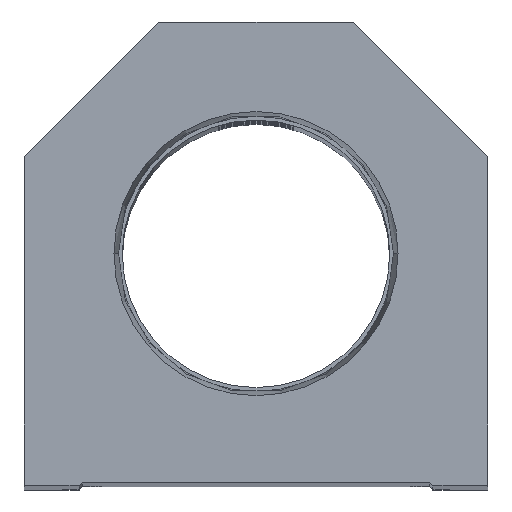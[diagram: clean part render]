
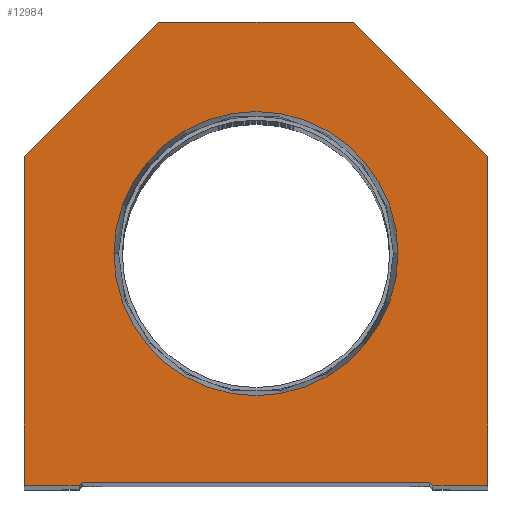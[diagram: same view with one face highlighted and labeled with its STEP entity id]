
A CAD part, top view. The second image highlights one B-rep face of the part: STEP entity #12984.
In plain terms, the highlighted planar face has unit normal (0, 0, 1).
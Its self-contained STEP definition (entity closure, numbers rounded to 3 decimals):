
#60 = CARTESIAN_POINT ( 'NONE',  ( -16., 76.2, 0. ) ) ;
#217 = VERTEX_POINT ( 'NONE', #4415 ) ;
#224 = EDGE_CURVE ( 'NONE', #7864, #4830, #20522, .T. ) ;
#392 = EDGE_CURVE ( 'NONE', #4830, #7657, #9941, .T. ) ;
#558 = DIRECTION ( 'NONE',  ( 0., 0., 1. ) ) ;
#641 = CARTESIAN_POINT ( 'NONE',  ( 0., 38.1, 0. ) ) ;
#644 = AXIS2_PLACEMENT_3D ( 'NONE', #12200, #558, #10685 ) ;
#664 = VECTOR ( 'NONE', #8861, 1000. ) ;
#673 = VECTOR ( 'NONE', #21005, 1000. ) ;
#888 = FACE_BOUND ( 'NONE', #3012, .T. ) ;
#890 = VERTEX_POINT ( 'NONE', #11385 ) ;
#917 = ORIENTED_EDGE ( 'NONE', *, *, #392, .T. ) ;
#1393 = ORIENTED_EDGE ( 'NONE', *, *, #224, .T. ) ;
#1446 = VERTEX_POINT ( 'NONE', #17085 ) ;
#1720 = DIRECTION ( 'NONE',  ( 0., 0., 1. ) ) ;
#1828 = ORIENTED_EDGE ( 'NONE', *, *, #5359, .T. ) ;
#2057 = EDGE_CURVE ( 'NONE', #19575, #1446, #20596, .T. ) ;
#2874 = CARTESIAN_POINT ( 'NONE',  ( 38.1, 54.1, 0. ) ) ;
#2933 = CARTESIAN_POINT ( 'NONE',  ( -29.1, 0., 0. ) ) ;
#3012 = EDGE_LOOP ( 'NONE', ( #20545, #3217 ) ) ;
#3068 = EDGE_CURVE ( 'NONE', #7657, #19575, #3826, .T. ) ;
#3217 = ORIENTED_EDGE ( 'NONE', *, *, #9348, .F. ) ;
#3594 = DIRECTION ( 'NONE',  ( 1., 0., 0. ) ) ;
#3696 = VERTEX_POINT ( 'NONE', #16777 ) ;
#3826 = LINE ( 'NONE', #18733, #18785 ) ;
#4254 = AXIS2_PLACEMENT_3D ( 'NONE', #641, #18951, #5766 ) ;
#4415 = CARTESIAN_POINT ( 'NONE',  ( 23.374, 38.1, 0. ) ) ;
#4433 = ORIENTED_EDGE ( 'NONE', *, *, #2057, .T. ) ;
#4830 = VERTEX_POINT ( 'NONE', #13885 ) ;
#4929 = ORIENTED_EDGE ( 'NONE', *, *, #8231, .T. ) ;
#5247 = VECTOR ( 'NONE', #6336, 1000. ) ;
#5319 = ORIENTED_EDGE ( 'NONE', *, *, #15252, .T. ) ;
#5359 = EDGE_CURVE ( 'NONE', #9768, #7864, #17467, .T. ) ;
#5384 = LINE ( 'NONE', #15339, #6581 ) ;
#5574 = ORIENTED_EDGE ( 'NONE', *, *, #21307, .T. ) ;
#5641 = DIRECTION ( 'NONE',  ( -0.707, -0.707, 0. ) ) ;
#5766 = DIRECTION ( 'NONE',  ( 1., 0., 0. ) ) ;
#5967 = VECTOR ( 'NONE', #15533, 1000. ) ;
#6208 = ORIENTED_EDGE ( 'NONE', *, *, #13174, .T. ) ;
#6336 = DIRECTION ( 'NONE',  ( 0., 1., 0. ) ) ;
#6581 = VECTOR ( 'NONE', #7016, 1000. ) ;
#6751 = CARTESIAN_POINT ( 'NONE',  ( 0., 38.1, 0. ) ) ;
#7016 = DIRECTION ( 'NONE',  ( -1., 0., 0. ) ) ;
#7091 = DIRECTION ( 'NONE',  ( 0.707, -0.707, 0. ) ) ;
#7657 = VERTEX_POINT ( 'NONE', #11686 ) ;
#7830 = CARTESIAN_POINT ( 'NONE',  ( 38.1, 54.1, 0. ) ) ;
#7864 = VERTEX_POINT ( 'NONE', #2933 ) ;
#7954 = LINE ( 'NONE', #15866, #5247 ) ;
#8101 = CARTESIAN_POINT ( 'NONE',  ( -38.1, 0., 0. ) ) ;
#8231 = EDGE_CURVE ( 'NONE', #1446, #12772, #7954, .T. ) ;
#8861 = DIRECTION ( 'NONE',  ( 0.707, 0.707, 0. ) ) ;
#9155 = PLANE ( 'NONE',  #644 ) ;
#9257 = CARTESIAN_POINT ( 'NONE',  ( -28.6, 0., 0. ) ) ;
#9348 = EDGE_CURVE ( 'NONE', #3696, #217, #17735, .T. ) ;
#9724 = LINE ( 'NONE', #8101, #20766 ) ;
#9768 = VERTEX_POINT ( 'NONE', #10350 ) ;
#9941 = LINE ( 'NONE', #13296, #14203 ) ;
#10350 = CARTESIAN_POINT ( 'NONE',  ( -38.1, 0., 0. ) ) ;
#10575 = CARTESIAN_POINT ( 'NONE',  ( 28.6, 0., 0. ) ) ;
#10685 = DIRECTION ( 'NONE',  ( 1., 0., 0. ) ) ;
#11103 = DIRECTION ( 'NONE',  ( 1., 0., 0. ) ) ;
#11385 = CARTESIAN_POINT ( 'NONE',  ( 16., 76.2, 0. ) ) ;
#11686 = CARTESIAN_POINT ( 'NONE',  ( 28.6, 0.5, 0. ) ) ;
#12094 = FACE_OUTER_BOUND ( 'NONE', #20566, .T. ) ;
#12200 = CARTESIAN_POINT ( 'NONE',  ( 0., 0., 0. ) ) ;
#12415 = CARTESIAN_POINT ( 'NONE',  ( -38.1, 54.1, 0. ) ) ;
#12772 = VERTEX_POINT ( 'NONE', #2874 ) ;
#12851 = VECTOR ( 'NONE', #5641, 1000. ) ;
#12984 = ADVANCED_FACE ( 'NONE', ( #888, #12094 ), #9155, .T. ) ;
#13174 = EDGE_CURVE ( 'NONE', #890, #15500, #5384, .T. ) ;
#13277 = EDGE_CURVE ( 'NONE', #217, #3696, #13834, .T. ) ;
#13296 = CARTESIAN_POINT ( 'NONE',  ( -28.6, 0.5, 0. ) ) ;
#13834 = CIRCLE ( 'NONE', #21407, 23.374 ) ;
#13885 = CARTESIAN_POINT ( 'NONE',  ( -28.6, 0.5, 0. ) ) ;
#14203 = VECTOR ( 'NONE', #19962, 1000. ) ;
#15252 = EDGE_CURVE ( 'NONE', #15500, #17866, #15404, .T. ) ;
#15339 = CARTESIAN_POINT ( 'NONE',  ( 16., 76.2, 0. ) ) ;
#15404 = LINE ( 'NONE', #20455, #12851 ) ;
#15500 = VERTEX_POINT ( 'NONE', #60 ) ;
#15533 = DIRECTION ( 'NONE',  ( 1., 0., 0. ) ) ;
#15627 = LINE ( 'NONE', #7830, #673 ) ;
#15651 = EDGE_CURVE ( 'NONE', #17866, #9768, #9724, .T. ) ;
#15866 = CARTESIAN_POINT ( 'NONE',  ( 38.1, 0., 0. ) ) ;
#16501 = CARTESIAN_POINT ( 'NONE',  ( 29.1, 0., 0. ) ) ;
#16777 = CARTESIAN_POINT ( 'NONE',  ( -23.374, 38.1, 0. ) ) ;
#17000 = ORIENTED_EDGE ( 'NONE', *, *, #15651, .T. ) ;
#17085 = CARTESIAN_POINT ( 'NONE',  ( 38.1, 0., 0. ) ) ;
#17467 = LINE ( 'NONE', #9257, #18840 ) ;
#17608 = CARTESIAN_POINT ( 'NONE',  ( -14.55, 14.55, 0. ) ) ;
#17735 = CIRCLE ( 'NONE', #4254, 23.374 ) ;
#17866 = VERTEX_POINT ( 'NONE', #12415 ) ;
#18733 = CARTESIAN_POINT ( 'NONE',  ( 14.55, 14.55, 0. ) ) ;
#18785 = VECTOR ( 'NONE', #7091, 1000. ) ;
#18840 = VECTOR ( 'NONE', #11103, 1000. ) ;
#18951 = DIRECTION ( 'NONE',  ( 0., 0., 1. ) ) ;
#19575 = VERTEX_POINT ( 'NONE', #16501 ) ;
#19796 = ORIENTED_EDGE ( 'NONE', *, *, #3068, .T. ) ;
#19962 = DIRECTION ( 'NONE',  ( 1., 0., 0. ) ) ;
#20455 = CARTESIAN_POINT ( 'NONE',  ( -38.1, 54.1, 0. ) ) ;
#20522 = LINE ( 'NONE', #17608, #664 ) ;
#20545 = ORIENTED_EDGE ( 'NONE', *, *, #13277, .F. ) ;
#20566 = EDGE_LOOP ( 'NONE', ( #1828, #1393, #917, #19796, #4433, #4929, #5574, #6208, #5319, #17000 ) ) ;
#20596 = LINE ( 'NONE', #10575, #5967 ) ;
#20766 = VECTOR ( 'NONE', #21281, 1000. ) ;
#21005 = DIRECTION ( 'NONE',  ( -0.707, 0.707, 0. ) ) ;
#21281 = DIRECTION ( 'NONE',  ( 0., -1., 0. ) ) ;
#21307 = EDGE_CURVE ( 'NONE', #12772, #890, #15627, .T. ) ;
#21407 = AXIS2_PLACEMENT_3D ( 'NONE', #6751, #1720, #3594 ) ;
